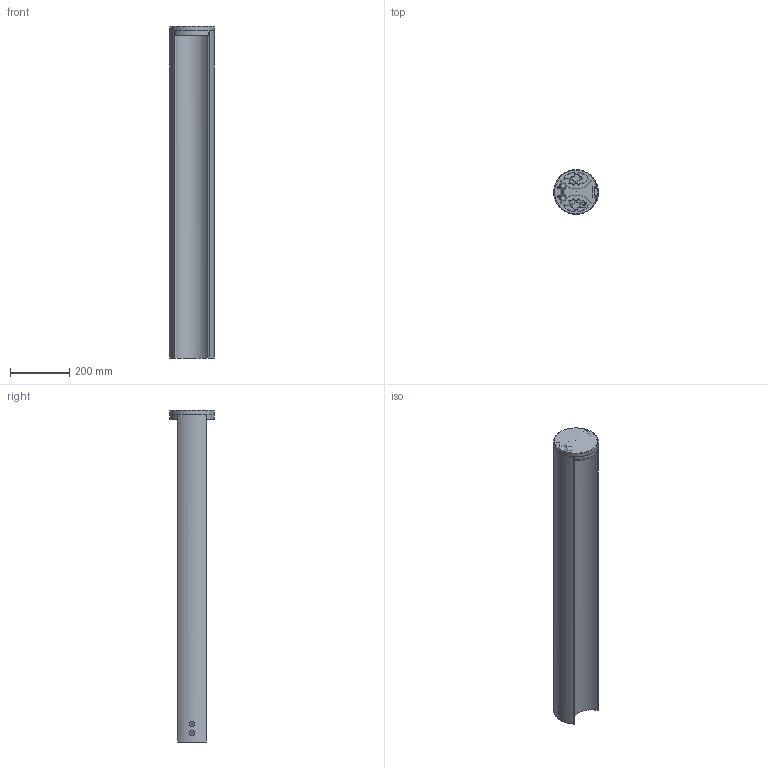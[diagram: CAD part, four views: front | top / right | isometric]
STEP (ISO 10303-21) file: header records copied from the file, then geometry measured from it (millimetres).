
FILE_DESCRIPTION(/* description */ ('Unknown'),/* implementation_level */ '2;1');
FILE_NAME(/* name */ 'RYO DOUBLE BIG',/* time_stamp */ '2023-01-17T10:35:24+01:00',/* author */ ('Unknown'),/* organization */ ('Unknown'),/* preprocessor_version */ 'ST-DEVELOPER v18.1',/* originating_system */ 'Solid Edge',/* authorisation */ 'Unknown');
FILE_SCHEMA (('AUTOMOTIVE_DESIGN {1 0 10303 214 3 1 1}'));
Length unit declared in the file: millimetre
Products named in the file (1): E64737_Semplifica
Bounding box: 150.82 x 150.46 x 1116.5 mm (x, y, z)
Volume: 1885507.8 mm3; surface area: 1175884.3 mm2
Topology: 2 solids, 2 shells, 1529 faces, 3537 edges, 1952 vertices
Faces by surface type: cylinder 541, torus 329, plane 281, cone 132, sphere 130, bspline 116
Full cylindrical faces by diameter (mm): 2.459 x8, 2.5 x7, 3 x8, 3.5 x8, 4.917 x4, 7 x6, 8 x4, 11.1 x4, 16 x3, 17 x2
Entity records: 52980 total; most frequent: CARTESIAN_POINT 9054, DIRECTION 7749, ORIENTED_EDGE 6564, AXIS2_PLACEMENT_3D 3309, EDGE_CURVE 3282, VERTEX_POINT 1913, CIRCLE 1833, EDGE_LOOP 1717
